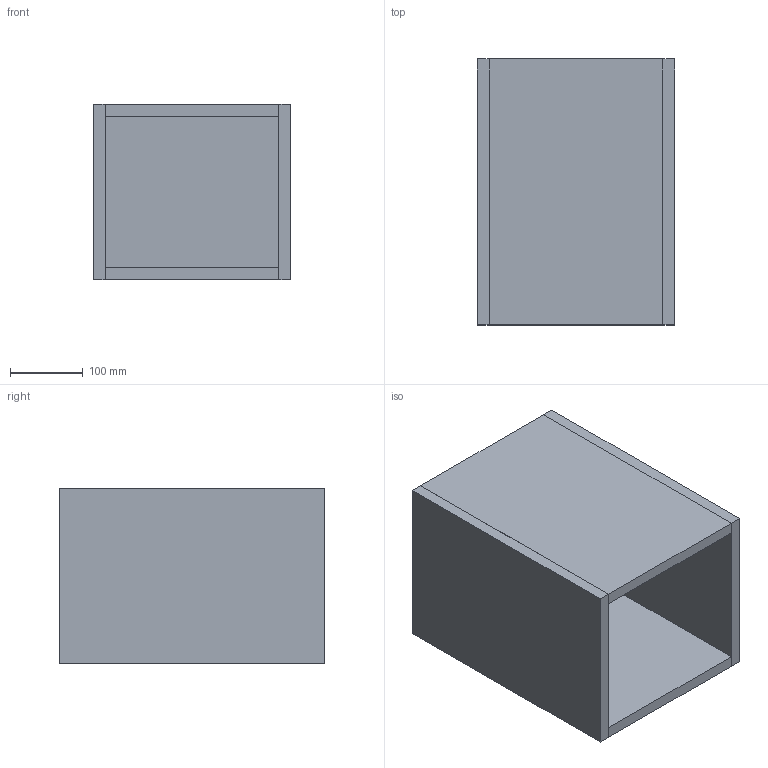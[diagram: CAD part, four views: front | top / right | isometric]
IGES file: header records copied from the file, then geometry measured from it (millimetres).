
Start section: Data from Parasolid IGES Translator 19.0.9, Copyright(c) 2006 Siemens PL M Software. All Rights Reserved.
Global section: file name: noorth-SI-H 24 D 38,8 W 27_8249.igs; native system: By Siemens PLM Incorporated; preprocessor: XPlus GENERIC/IGES 19.0.9; author: Noname; organization: Noname; date: 20200530.105009; units: metre
Bounding box: 270.01 x 364.06 x 240 mm (x, y, z)
Volume: 5711515 mm3; surface area: 875053.2 mm2
Topology: 5 solids, 5 shells, 30 faces, 60 edges, 40 vertices
Faces by surface type: plane 30
